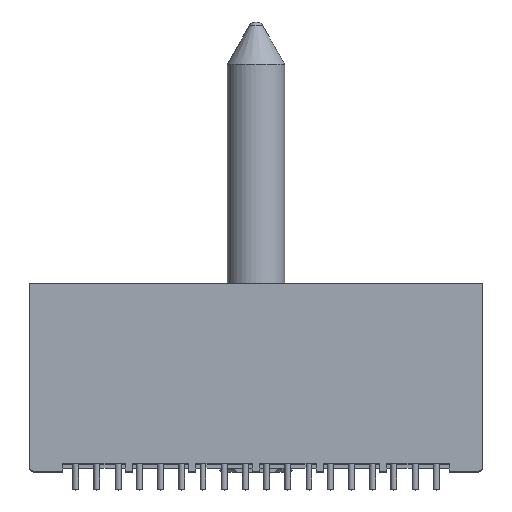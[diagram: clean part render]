
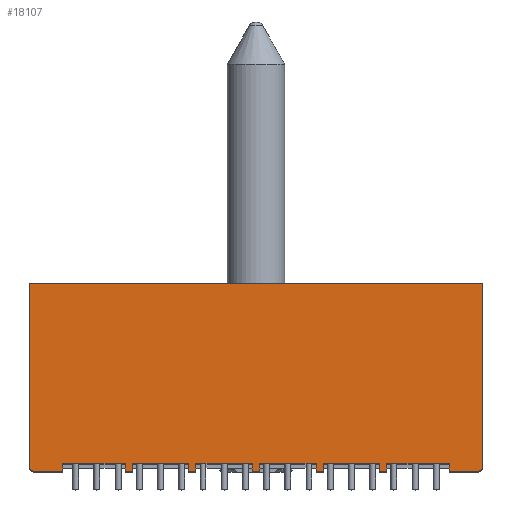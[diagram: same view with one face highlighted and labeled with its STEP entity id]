
A CAD part, top view. The second image highlights one B-rep face of the part: STEP entity #18107.
In plain terms, the highlighted planar face has unit normal (0, 0, 1).
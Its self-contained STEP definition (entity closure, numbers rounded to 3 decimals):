
#833=DIRECTION('',(0.,-1.,0.));
#834=VECTOR('',#833,11.65);
#835=CARTESIAN_POINT('',(34.583,24.363,61.503));
#836=LINE('',#835,#834);
#1583=DIRECTION('',(0.,1.,0.));
#1584=VECTOR('',#1583,11.65);
#1585=CARTESIAN_POINT('',(5.733,12.713,61.503));
#1586=LINE('',#1585,#1584);
#2143=DIRECTION('',(1.,0.,0.));
#2144=VECTOR('',#2143,0.45);
#2145=CARTESIAN_POINT('',(19.933,12.413,61.503));
#2146=LINE('',#2145,#2144);
#2147=DIRECTION('',(0.,-1.,0.));
#2148=VECTOR('',#2147,0.5);
#2149=CARTESIAN_POINT('',(19.933,12.913,61.503));
#2150=LINE('',#2149,#2148);
#2151=DIRECTION('',(1.,0.,0.));
#2152=VECTOR('',#2151,0.45);
#2153=CARTESIAN_POINT('',(15.883,12.413,61.503));
#2154=LINE('',#2153,#2152);
#2155=DIRECTION('',(0.,-1.,0.));
#2156=VECTOR('',#2155,0.5);
#2157=CARTESIAN_POINT('',(15.883,12.913,61.503));
#2158=LINE('',#2157,#2156);
#2159=DIRECTION('',(0.,1.,0.));
#2160=VECTOR('',#2159,0.5);
#2161=CARTESIAN_POINT('',(12.283,12.413,61.503));
#2162=LINE('',#2161,#2160);
#2163=DIRECTION('',(1.,0.,0.));
#2164=VECTOR('',#2163,0.45);
#2165=CARTESIAN_POINT('',(11.833,12.413,61.503));
#2166=LINE('',#2165,#2164);
#2167=DIRECTION('',(1.,0.,0.));
#2168=VECTOR('',#2167,1.82);
#2169=CARTESIAN_POINT('',(6.033,12.413,61.503));
#2170=LINE('',#2169,#2168);
#2171=CARTESIAN_POINT('',(6.033,12.713,61.503));
#2172=DIRECTION('',(0.,0.,1.));
#2173=DIRECTION('',(-1.,0.,0.));
#2174=AXIS2_PLACEMENT_3D('',#2171,#2172,#2173);
#2176=DIRECTION('',(-1.,0.,0.));
#2177=VECTOR('',#2176,28.85);
#2178=CARTESIAN_POINT('',(34.583,24.363,61.503));
#2179=LINE('',#2178,#2177);
#2180=CARTESIAN_POINT('',(34.283,12.713,61.503));
#2181=DIRECTION('',(0.,0.,1.));
#2182=DIRECTION('',(0.,-1.,0.));
#2183=AXIS2_PLACEMENT_3D('',#2180,#2181,#2182);
#2185=DIRECTION('',(1.,0.,0.));
#2186=VECTOR('',#2185,1.82);
#2187=CARTESIAN_POINT('',(32.463,12.413,61.503));
#2188=LINE('',#2187,#2186);
#2189=DIRECTION('',(0.,-1.,0.));
#2190=VECTOR('',#2189,0.5);
#2191=CARTESIAN_POINT('',(32.463,12.913,61.503));
#2192=LINE('',#2191,#2190);
#2193=DIRECTION('',(1.,0.,0.));
#2194=VECTOR('',#2193,0.45);
#2195=CARTESIAN_POINT('',(28.033,12.413,61.503));
#2196=LINE('',#2195,#2194);
#2197=DIRECTION('',(0.,-1.,0.));
#2198=VECTOR('',#2197,0.5);
#2199=CARTESIAN_POINT('',(28.033,12.913,61.503));
#2200=LINE('',#2199,#2198);
#2201=DIRECTION('',(1.,0.,0.));
#2202=VECTOR('',#2201,0.45);
#2203=CARTESIAN_POINT('',(23.983,12.413,61.503));
#2204=LINE('',#2203,#2202);
#2205=DIRECTION('',(0.,-1.,0.));
#2206=VECTOR('',#2205,0.5);
#2207=CARTESIAN_POINT('',(23.983,12.913,61.503));
#2208=LINE('',#2207,#2206);
#2209=DIRECTION('',(0.,1.,0.));
#2210=VECTOR('',#2209,0.5);
#2211=CARTESIAN_POINT('',(20.383,12.413,61.503));
#2212=LINE('',#2211,#2210);
#2273=DIRECTION('',(-1.,0.,0.));
#2274=VECTOR('',#2273,3.98);
#2275=CARTESIAN_POINT('',(11.833,12.913,61.503));
#2276=LINE('',#2275,#2274);
#2281=DIRECTION('',(-1.,0.,0.));
#2282=VECTOR('',#2281,3.6);
#2283=CARTESIAN_POINT('',(15.883,12.913,61.503));
#2284=LINE('',#2283,#2282);
#2289=DIRECTION('',(-1.,0.,0.));
#2290=VECTOR('',#2289,3.6);
#2291=CARTESIAN_POINT('',(19.933,12.913,61.503));
#2292=LINE('',#2291,#2290);
#2293=DIRECTION('',(-1.,0.,0.));
#2294=VECTOR('',#2293,3.6);
#2295=CARTESIAN_POINT('',(23.983,12.913,61.503));
#2296=LINE('',#2295,#2294);
#2301=DIRECTION('',(-1.,0.,0.));
#2302=VECTOR('',#2301,3.6);
#2303=CARTESIAN_POINT('',(28.033,12.913,61.503));
#2304=LINE('',#2303,#2302);
#2309=DIRECTION('',(-1.,0.,0.));
#2310=VECTOR('',#2309,3.98);
#2311=CARTESIAN_POINT('',(32.463,12.913,61.503));
#2312=LINE('',#2311,#2310);
#3496=DIRECTION('',(0.,-1.,0.));
#3497=VECTOR('',#3496,0.5);
#3498=CARTESIAN_POINT('',(7.853,12.913,61.503));
#3499=LINE('',#3498,#3497);
#3935=DIRECTION('',(0.,1.,0.));
#3936=VECTOR('',#3935,0.5);
#3937=CARTESIAN_POINT('',(11.833,12.413,61.503));
#3938=LINE('',#3937,#3936);
#3983=DIRECTION('',(0.,-1.,0.));
#3984=VECTOR('',#3983,0.5);
#3985=CARTESIAN_POINT('',(16.333,12.913,61.503));
#3986=LINE('',#3985,#3984);
#4031=DIRECTION('',(0.,-1.,0.));
#4032=VECTOR('',#4031,0.5);
#4033=CARTESIAN_POINT('',(24.433,12.913,61.503));
#4034=LINE('',#4033,#4032);
#4063=DIRECTION('',(0.,-1.,0.));
#4064=VECTOR('',#4063,0.5);
#4065=CARTESIAN_POINT('',(28.483,12.913,61.503));
#4066=LINE('',#4065,#4064);
#11655=CARTESIAN_POINT('',(20.383,12.413,61.503));
#11656=VERTEX_POINT('',#11655);
#11657=CARTESIAN_POINT('',(20.383,12.913,61.503));
#11658=VERTEX_POINT('',#11657);
#11787=CARTESIAN_POINT('',(34.583,24.363,61.503));
#11788=CARTESIAN_POINT('',(5.733,24.363,61.503));
#11789=VERTEX_POINT('',#11787);
#11790=VERTEX_POINT('',#11788);
#11935=CARTESIAN_POINT('',(34.283,12.413,61.503));
#11936=VERTEX_POINT('',#11935);
#11937=CARTESIAN_POINT('',(34.583,12.713,61.503));
#11938=VERTEX_POINT('',#11937);
#12071=CARTESIAN_POINT('',(24.433,12.913,61.503));
#12072=CARTESIAN_POINT('',(24.433,12.413,61.503));
#12073=VERTEX_POINT('',#12071);
#12074=VERTEX_POINT('',#12072);
#12211=CARTESIAN_POINT('',(15.883,12.413,61.503));
#12212=VERTEX_POINT('',#12211);
#12213=CARTESIAN_POINT('',(16.333,12.413,61.503));
#12214=VERTEX_POINT('',#12213);
#12240=CARTESIAN_POINT('',(32.463,12.413,61.503));
#12241=VERTEX_POINT('',#12240);
#12450=CARTESIAN_POINT('',(28.033,12.913,61.503));
#12451=CARTESIAN_POINT('',(28.033,12.413,61.503));
#12452=VERTEX_POINT('',#12450);
#12453=VERTEX_POINT('',#12451);
#12507=CARTESIAN_POINT('',(28.483,12.413,61.503));
#12509=VERTEX_POINT('',#12507);
#12540=CARTESIAN_POINT('',(23.983,12.913,61.503));
#12541=CARTESIAN_POINT('',(23.983,12.413,61.503));
#12542=VERTEX_POINT('',#12540);
#12543=VERTEX_POINT('',#12541);
#12580=CARTESIAN_POINT('',(19.933,12.413,61.503));
#12581=VERTEX_POINT('',#12580);
#12594=CARTESIAN_POINT('',(28.483,12.913,61.503));
#12595=VERTEX_POINT('',#12594);
#12670=CARTESIAN_POINT('',(32.463,12.913,61.503));
#12671=VERTEX_POINT('',#12670);
#12724=CARTESIAN_POINT('',(7.853,12.913,61.503));
#12725=VERTEX_POINT('',#12724);
#12726=CARTESIAN_POINT('',(11.833,12.913,61.503));
#12727=VERTEX_POINT('',#12726);
#12728=CARTESIAN_POINT('',(12.283,12.913,61.503));
#12729=VERTEX_POINT('',#12728);
#12730=CARTESIAN_POINT('',(15.883,12.913,61.503));
#12731=VERTEX_POINT('',#12730);
#12736=CARTESIAN_POINT('',(16.333,12.913,61.503));
#12737=VERTEX_POINT('',#12736);
#12738=CARTESIAN_POINT('',(19.933,12.913,61.503));
#12739=VERTEX_POINT('',#12738);
#13416=CARTESIAN_POINT('',(12.283,12.413,61.503));
#13417=VERTEX_POINT('',#13416);
#13474=CARTESIAN_POINT('',(7.853,12.413,61.503));
#13475=VERTEX_POINT('',#13474);
#13541=CARTESIAN_POINT('',(5.733,12.713,61.503));
#13542=VERTEX_POINT('',#13541);
#13543=CARTESIAN_POINT('',(6.033,12.413,61.503));
#13544=VERTEX_POINT('',#13543);
#13697=CARTESIAN_POINT('',(11.833,12.413,61.503));
#13698=VERTEX_POINT('',#13697);
#18047=CARTESIAN_POINT('',(28.951,13.772,61.503));
#18048=DIRECTION('',(0.,0.,1.));
#18049=DIRECTION('',(0.,-1.,0.));
#18050=AXIS2_PLACEMENT_3D('',#18047,#18048,#18049);
#18051=PLANE('',#18050);
#18053=ORIENTED_EDGE('',*,*,#18052,.F.);
#18055=ORIENTED_EDGE('',*,*,#18054,.F.);
#18057=ORIENTED_EDGE('',*,*,#18056,.T.);
#18059=ORIENTED_EDGE('',*,*,#18058,.T.);
#18061=ORIENTED_EDGE('',*,*,#18060,.F.);
#18063=ORIENTED_EDGE('',*,*,#18062,.F.);
#18065=ORIENTED_EDGE('',*,*,#18064,.T.);
#18067=ORIENTED_EDGE('',*,*,#18066,.F.);
#18069=ORIENTED_EDGE('',*,*,#18068,.F.);
#18071=ORIENTED_EDGE('',*,*,#18070,.T.);
#18073=ORIENTED_EDGE('',*,*,#18072,.T.);
#18075=ORIENTED_EDGE('',*,*,#18074,.T.);
#18076=ORIENTED_EDGE('',*,*,#17484,.F.);
#18077=ORIENTED_EDGE('',*,*,#18042,.F.);
#18078=ORIENTED_EDGE('',*,*,#17348,.T.);
#18079=ORIENTED_EDGE('',*,*,#16300,.F.);
#18080=ORIENTED_EDGE('',*,*,#16385,.T.);
#18082=ORIENTED_EDGE('',*,*,#18081,.F.);
#18083=ORIENTED_EDGE('',*,*,#16438,.F.);
#18084=ORIENTED_EDGE('',*,*,#16533,.F.);
#18086=ORIENTED_EDGE('',*,*,#18085,.T.);
#18088=ORIENTED_EDGE('',*,*,#18087,.T.);
#18090=ORIENTED_EDGE('',*,*,#18089,.F.);
#18092=ORIENTED_EDGE('',*,*,#18091,.F.);
#18094=ORIENTED_EDGE('',*,*,#18093,.T.);
#18096=ORIENTED_EDGE('',*,*,#18095,.T.);
#18098=ORIENTED_EDGE('',*,*,#18097,.F.);
#18100=ORIENTED_EDGE('',*,*,#18099,.F.);
#18102=ORIENTED_EDGE('',*,*,#18101,.T.);
#18104=ORIENTED_EDGE('',*,*,#18103,.F.);
#18105=EDGE_LOOP('',(#18053,#18055,#18057,#18059,#18061,#18063,#18065,#18067,
#18069,#18071,#18073,#18075,#18076,#18077,#18078,#18079,#18080,#18082,#18083,
#18084,#18086,#18088,#18090,#18092,#18094,#18096,#18098,#18100,#18102,#18104));
#18106=FACE_OUTER_BOUND('',#18105,.F.);
#18107=ADVANCED_FACE('',(#18106),#18051,.T.);
#2175=CIRCLE('',#2174,0.3);
#2184=CIRCLE('',#2183,0.3);
#16300=EDGE_CURVE('',#11789,#11790,#2179,.T.);
#16385=EDGE_CURVE('',#11789,#11938,#836,.T.);
#16438=EDGE_CURVE('',#12241,#11936,#2188,.T.);
#16533=EDGE_CURVE('',#12671,#12241,#2192,.T.);
#17348=EDGE_CURVE('',#13542,#11790,#1586,.T.);
#17484=EDGE_CURVE('',#13544,#13475,#2170,.T.);
#18042=EDGE_CURVE('',#13542,#13544,#2175,.T.);
#18052=EDGE_CURVE('',#12581,#11656,#2146,.T.);
#18054=EDGE_CURVE('',#12739,#12581,#2150,.T.);
#18056=EDGE_CURVE('',#12739,#12737,#2292,.T.);
#18058=EDGE_CURVE('',#12737,#12214,#3986,.T.);
#18060=EDGE_CURVE('',#12212,#12214,#2154,.T.);
#18062=EDGE_CURVE('',#12731,#12212,#2158,.T.);
#18064=EDGE_CURVE('',#12731,#12729,#2284,.T.);
#18066=EDGE_CURVE('',#13417,#12729,#2162,.T.);
#18068=EDGE_CURVE('',#13698,#13417,#2166,.T.);
#18070=EDGE_CURVE('',#13698,#12727,#3938,.T.);
#18072=EDGE_CURVE('',#12727,#12725,#2276,.T.);
#18074=EDGE_CURVE('',#12725,#13475,#3499,.T.);
#18081=EDGE_CURVE('',#11936,#11938,#2184,.T.);
#18085=EDGE_CURVE('',#12671,#12595,#2312,.T.);
#18087=EDGE_CURVE('',#12595,#12509,#4066,.T.);
#18089=EDGE_CURVE('',#12453,#12509,#2196,.T.);
#18091=EDGE_CURVE('',#12452,#12453,#2200,.T.);
#18093=EDGE_CURVE('',#12452,#12073,#2304,.T.);
#18095=EDGE_CURVE('',#12073,#12074,#4034,.T.);
#18097=EDGE_CURVE('',#12543,#12074,#2204,.T.);
#18099=EDGE_CURVE('',#12542,#12543,#2208,.T.);
#18101=EDGE_CURVE('',#12542,#11658,#2296,.T.);
#18103=EDGE_CURVE('',#11656,#11658,#2212,.T.);
